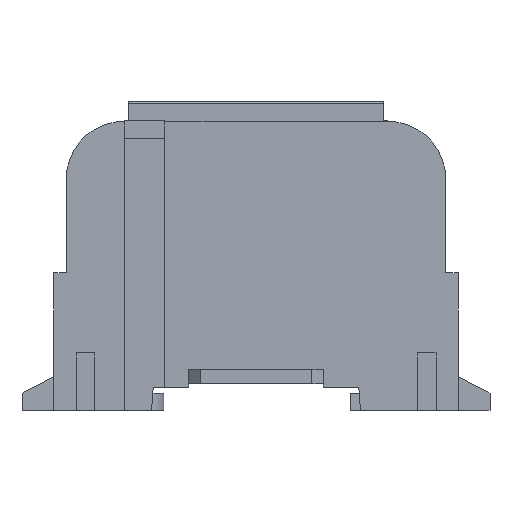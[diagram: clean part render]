
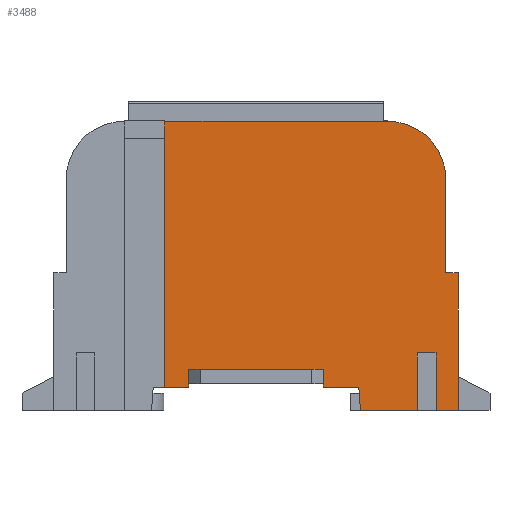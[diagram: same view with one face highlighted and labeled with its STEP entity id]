
A CAD part, front view. The second image highlights one B-rep face of the part: STEP entity #3488.
In plain terms, the highlighted planar face has unit normal (0, -1, 0).
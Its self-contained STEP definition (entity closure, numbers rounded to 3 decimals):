
#73=CIRCLE('',#3697,10.);
#862=ORIENTED_EDGE('',*,*,#1388,.T.);
#863=ORIENTED_EDGE('',*,*,#1503,.T.);
#864=ORIENTED_EDGE('',*,*,#1505,.F.);
#865=ORIENTED_EDGE('',*,*,#1506,.F.);
#866=ORIENTED_EDGE('',*,*,#1393,.T.);
#867=ORIENTED_EDGE('',*,*,#1398,.T.);
#868=ORIENTED_EDGE('',*,*,#1401,.T.);
#869=ORIENTED_EDGE('',*,*,#1404,.F.);
#870=ORIENTED_EDGE('',*,*,#1387,.T.);
#871=ORIENTED_EDGE('',*,*,#1385,.F.);
#872=ORIENTED_EDGE('',*,*,#1383,.F.);
#873=ORIENTED_EDGE('',*,*,#1382,.F.);
#874=ORIENTED_EDGE('',*,*,#1380,.F.);
#875=ORIENTED_EDGE('',*,*,#1379,.F.);
#876=ORIENTED_EDGE('',*,*,#1377,.F.);
#877=ORIENTED_EDGE('',*,*,#1376,.F.);
#878=ORIENTED_EDGE('',*,*,#1085,.F.);
#879=ORIENTED_EDGE('',*,*,#1507,.F.);
#880=ORIENTED_EDGE('',*,*,#1498,.T.);
#1085=EDGE_CURVE('',#1569,#1570,#1893,.T.);
#1376=EDGE_CURVE('',#1570,#1786,#2136,.T.);
#1377=EDGE_CURVE('',#1786,#1692,#2137,.T.);
#1379=EDGE_CURVE('',#1692,#1787,#2139,.T.);
#1380=EDGE_CURVE('',#1787,#1788,#2140,.T.);
#1382=EDGE_CURVE('',#1788,#1693,#2142,.T.);
#1383=EDGE_CURVE('',#1693,#1789,#2143,.T.);
#1385=EDGE_CURVE('',#1789,#1790,#2145,.T.);
#1387=EDGE_CURVE('',#1705,#1790,#2147,.T.);
#1388=EDGE_CURVE('',#1791,#1792,#2148,.T.);
#1393=EDGE_CURVE('',#1797,#1796,#2153,.T.);
#1398=EDGE_CURVE('',#1796,#1800,#2158,.T.);
#1401=EDGE_CURVE('',#1800,#1802,#73,.F.);
#1404=EDGE_CURVE('',#1705,#1802,#2162,.T.);
#1498=EDGE_CURVE('',#1855,#1791,#2251,.T.);
#1503=EDGE_CURVE('',#1792,#1858,#2256,.T.);
#1505=EDGE_CURVE('',#1859,#1858,#2258,.T.);
#1506=EDGE_CURVE('',#1797,#1859,#2259,.T.);
#1507=EDGE_CURVE('',#1855,#1569,#2260,.T.);
#1569=VERTEX_POINT('',#4711);
#1570=VERTEX_POINT('',#4713);
#1692=VERTEX_POINT('',#5053);
#1693=VERTEX_POINT('',#5055);
#1705=VERTEX_POINT('',#5089);
#1786=VERTEX_POINT('',#5323);
#1787=VERTEX_POINT('',#5330);
#1788=VERTEX_POINT('',#5334);
#1789=VERTEX_POINT('',#5340);
#1790=VERTEX_POINT('',#5344);
#1791=VERTEX_POINT('',#5350);
#1792=VERTEX_POINT('',#5351);
#1796=VERTEX_POINT('',#5360);
#1797=VERTEX_POINT('',#5362);
#1800=VERTEX_POINT('',#5370);
#1802=VERTEX_POINT('',#5376);
#1855=VERTEX_POINT('',#5566);
#1858=VERTEX_POINT('',#5576);
#1859=VERTEX_POINT('',#5580);
#1893=LINE('',#4712,#2315);
#2136=LINE('',#5325,#2558);
#2137=LINE('',#5327,#2559);
#2139=LINE('',#5331,#2561);
#2140=LINE('',#5333,#2562);
#2142=LINE('',#5337,#2564);
#2143=LINE('',#5339,#2565);
#2145=LINE('',#5343,#2567);
#2147=LINE('',#5347,#2569);
#2148=LINE('',#5349,#2570);
#2153=LINE('',#5361,#2575);
#2158=LINE('',#5371,#2580);
#2162=LINE('',#5382,#2584);
#2251=LINE('',#5565,#2673);
#2256=LINE('',#5575,#2678);
#2258=LINE('',#5579,#2680);
#2259=LINE('',#5581,#2681);
#2260=LINE('',#5582,#2682);
#2315=VECTOR('',#3789,1000.);
#2558=VECTOR('',#4338,1000.);
#2559=VECTOR('',#4341,1000.);
#2561=VECTOR('',#4345,1000.);
#2562=VECTOR('',#4348,1000.);
#2564=VECTOR('',#4352,1000.);
#2565=VECTOR('',#4355,1000.);
#2567=VECTOR('',#4359,1000.);
#2569=VECTOR('',#4363,1000.);
#2570=VECTOR('',#4366,1000.);
#2575=VECTOR('',#4373,1000.);
#2580=VECTOR('',#4380,1000.);
#2584=VECTOR('',#4392,1000.);
#2673=VECTOR('',#4567,1000.);
#2678=VECTOR('',#4576,1000.);
#2680=VECTOR('',#4580,1000.);
#2681=VECTOR('',#4581,1000.);
#2682=VECTOR('',#4582,1000.);
#2914=EDGE_LOOP('',(#862,#863,#864,#865,#866,#867,#868,#869,#870,#871,#872,
#873,#874,#875,#876,#877,#878,#879,#880));
#3134=FACE_BOUND('',#2914,.T.);
#3304=PLANE('',#3744);
#3488=ADVANCED_FACE('',(#3134),#3304,.F.);
#3697=AXIS2_PLACEMENT_3D('',#5377,#4386,#4387);
#3744=AXIS2_PLACEMENT_3D('',#5578,#4578,#4579);
#3789=DIRECTION('',(-0.075,0.,0.997));
#4338=DIRECTION('',(-1.,0.,0.));
#4341=DIRECTION('',(0.,0.,1.));
#4345=DIRECTION('',(0.,0.,1.));
#4348=DIRECTION('',(-1.,0.,0.));
#4352=DIRECTION('',(0.,0.,-1.));
#4355=DIRECTION('',(0.,0.,-1.));
#4359=DIRECTION('',(-1.,0.,0.));
#4363=DIRECTION('',(0.,0.,-1.));
#4366=DIRECTION('',(1.,0.,0.));
#4373=DIRECTION('',(-1.,0.,0.));
#4380=DIRECTION('',(0.,0.,1.));
#4386=DIRECTION('',(0.,1.,0.));
#4387=DIRECTION('',(0.,0.,1.));
#4392=DIRECTION('',(1.,0.,0.));
#4567=DIRECTION('',(0.,0.,1.));
#4576=DIRECTION('',(0.,0.,-1.));
#4578=DIRECTION('',(0.,1.,0.));
#4579=DIRECTION('',(0.,0.,1.));
#4580=DIRECTION('',(-1.,0.,0.));
#4581=DIRECTION('',(0.,0.,-1.));
#4582=DIRECTION('',(-1.,0.,0.));
#4711=CARTESIAN_POINT('',(18.,-2.9,-24.9));
#4712=CARTESIAN_POINT('',(18.,-2.9,-24.9));
#4713=CARTESIAN_POINT('',(17.7,-2.9,-20.911));
#5053=CARTESIAN_POINT('',(11.625,-2.9,-20.311));
#5055=CARTESIAN_POINT('',(-11.625,-2.9,-20.311));
#5089=CARTESIAN_POINT('',(-15.7,-2.9,24.9));
#5323=CARTESIAN_POINT('',(11.625,-2.9,-20.911));
#5325=CARTESIAN_POINT('',(11.625,-2.9,-20.911));
#5327=CARTESIAN_POINT('',(11.625,-2.9,-20.911));
#5330=CARTESIAN_POINT('',(11.625,-2.9,-17.811));
#5331=CARTESIAN_POINT('',(11.625,-2.9,-20.311));
#5333=CARTESIAN_POINT('',(-11.625,-2.9,-17.811));
#5334=CARTESIAN_POINT('',(-11.625,-2.9,-17.811));
#5337=CARTESIAN_POINT('',(-11.625,-2.9,-17.811));
#5339=CARTESIAN_POINT('',(-11.625,-2.9,-20.911));
#5340=CARTESIAN_POINT('',(-11.625,-2.9,-20.911));
#5343=CARTESIAN_POINT('',(-17.7,-2.9,-20.911));
#5344=CARTESIAN_POINT('',(-15.7,-2.9,-20.911));
#5347=CARTESIAN_POINT('',(-15.7,-2.9,24.9));
#5349=CARTESIAN_POINT('',(31.,-2.9,-15.));
#5350=CARTESIAN_POINT('',(27.8,-2.9,-15.));
#5351=CARTESIAN_POINT('',(31.,-2.9,-15.));
#5360=CARTESIAN_POINT('',(32.7,-2.9,-1.2));
#5361=CARTESIAN_POINT('',(34.8,-2.9,-1.2));
#5362=CARTESIAN_POINT('',(34.8,-2.9,-1.2));
#5370=CARTESIAN_POINT('',(32.7,-2.9,14.9));
#5371=CARTESIAN_POINT('',(32.7,-2.9,24.9));
#5376=CARTESIAN_POINT('',(22.7,-2.9,24.9));
#5377=CARTESIAN_POINT('',(22.7,-2.9,14.9));
#5382=CARTESIAN_POINT('',(-59.896,-2.9,24.9));
#5565=CARTESIAN_POINT('',(27.8,-2.9,-24.9));
#5566=CARTESIAN_POINT('',(27.8,-2.9,-24.9));
#5575=CARTESIAN_POINT('',(31.,-2.9,-24.9));
#5576=CARTESIAN_POINT('',(31.,-2.9,-24.9));
#5578=CARTESIAN_POINT('',(0.,-2.9,0.));
#5579=CARTESIAN_POINT('',(59.896,-2.9,-24.9));
#5580=CARTESIAN_POINT('',(34.8,-2.9,-24.9));
#5581=CARTESIAN_POINT('',(34.8,-2.9,48.714));
#5582=CARTESIAN_POINT('',(59.896,-2.9,-24.9));
